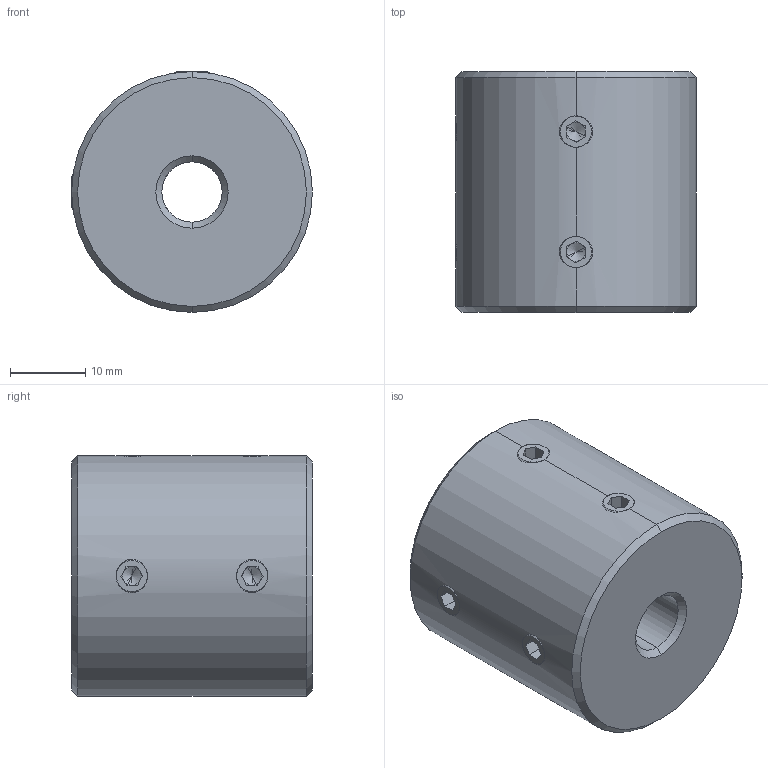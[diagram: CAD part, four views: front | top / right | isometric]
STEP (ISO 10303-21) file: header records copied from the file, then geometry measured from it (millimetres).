
FILE_DESCRIPTION (( 'STEP AP214' ), '1' );
FILE_NAME ('LL-D-D32L32-8-8½¨Ä£.STEP', '2022-07-22T11:23:45', ( '' ), ( '' ), 'SwSTEP 2.0', 'SolidWorks 2022', '' );
FILE_SCHEMA (( 'AUTOMOTIVE_DESIGN' ));
Length unit declared in the file: millimetre
Products named in the file (1): LL-D-D32L32-8-8膘耀
Bounding box: 32 x 32 x 32 mm (x, y, z)
Volume: 23768.3 mm3; surface area: 5735.6 mm2
Topology: 1 solids, 1 shells, 110 faces, 280 edges, 172 vertices
Faces by surface type: plane 58, cone 32, cylinder 20
Entity records: 3678 total; most frequent: CARTESIAN_POINT 1035, ORIENTED_EDGE 544, DIRECTION 542, EDGE_CURVE 272, AXIS2_PLACEMENT_3D 199, VERTEX_POINT 172, VECTOR 144, LINE 144
